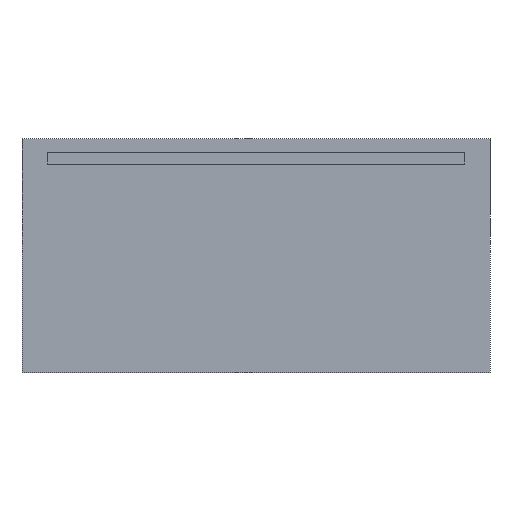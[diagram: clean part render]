
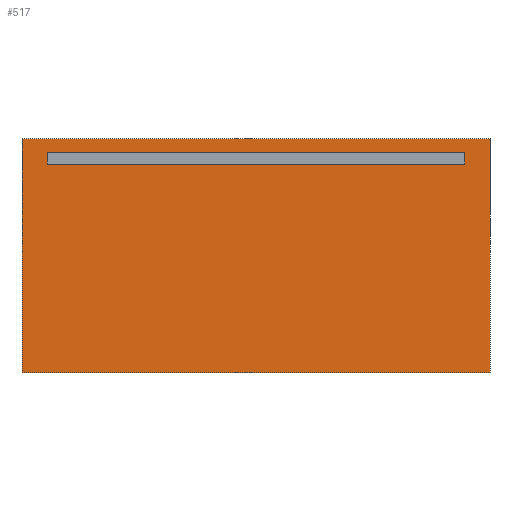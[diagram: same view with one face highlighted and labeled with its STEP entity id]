
A CAD part, front view. The second image highlights one B-rep face of the part: STEP entity #517.
In plain terms, the highlighted planar face has unit normal (0, -1, 0).
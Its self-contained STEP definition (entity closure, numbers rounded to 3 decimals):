
#47=FACE_BOUND('',#92,.T.);
#62=FACE_OUTER_BOUND('',#91,.T.);
#91=EDGE_LOOP('',(#359,#360,#361,#362));
#92=EDGE_LOOP('',(#363,#364,#365,#366));
#115=LINE('',#766,#159);
#119=LINE('',#774,#163);
#122=LINE('',#780,#166);
#125=LINE('',#785,#169);
#127=LINE('',#791,#171);
#131=LINE('',#799,#175);
#134=LINE('',#805,#178);
#137=LINE('',#810,#181);
#159=VECTOR('',#614,10.);
#163=VECTOR('',#620,10.);
#166=VECTOR('',#625,10.);
#169=VECTOR('',#630,10.);
#171=VECTOR('',#636,10.);
#175=VECTOR('',#642,10.);
#178=VECTOR('',#647,10.);
#181=VECTOR('',#652,10.);
#203=VERTEX_POINT('',#764);
#204=VERTEX_POINT('',#765);
#207=VERTEX_POINT('',#773);
#209=VERTEX_POINT('',#779);
#211=VERTEX_POINT('',#789);
#212=VERTEX_POINT('',#790);
#215=VERTEX_POINT('',#798);
#217=VERTEX_POINT('',#804);
#251=EDGE_CURVE('',#203,#204,#115,.T.);
#255=EDGE_CURVE('',#207,#203,#119,.T.);
#258=EDGE_CURVE('',#209,#207,#122,.T.);
#261=EDGE_CURVE('',#204,#209,#125,.T.);
#263=EDGE_CURVE('',#211,#212,#127,.T.);
#267=EDGE_CURVE('',#215,#211,#131,.T.);
#270=EDGE_CURVE('',#217,#215,#134,.T.);
#273=EDGE_CURVE('',#212,#217,#137,.T.);
#359=ORIENTED_EDGE('',*,*,#273,.F.);
#360=ORIENTED_EDGE('',*,*,#263,.F.);
#361=ORIENTED_EDGE('',*,*,#267,.F.);
#362=ORIENTED_EDGE('',*,*,#270,.F.);
#363=ORIENTED_EDGE('',*,*,#251,.T.);
#364=ORIENTED_EDGE('',*,*,#261,.T.);
#365=ORIENTED_EDGE('',*,*,#258,.T.);
#366=ORIENTED_EDGE('',*,*,#255,.T.);
#465=PLANE('',#567);
#517=ADVANCED_FACE('',(#62,#47),#465,.F.);
#567=AXIS2_PLACEMENT_3D('',#813,#656,#657);
#614=DIRECTION('',(0.,0.,-1.));
#620=DIRECTION('',(1.,0.,0.));
#625=DIRECTION('',(0.,0.,1.));
#630=DIRECTION('',(-1.,0.,0.));
#636=DIRECTION('',(0.,0.,1.));
#642=DIRECTION('',(-1.,0.,0.));
#647=DIRECTION('',(0.,0.,-1.));
#652=DIRECTION('',(1.,0.,0.));
#656=DIRECTION('center_axis',(0.,1.,0.));
#657=DIRECTION('ref_axis',(0.,0.,1.));
#764=CARTESIAN_POINT('',(625.,-26.,660.));
#765=CARTESIAN_POINT('',(625.,-26.,625.));
#766=CARTESIAN_POINT('',(625.,-26.,505.));
#773=CARTESIAN_POINT('',(-625.,-26.,660.));
#774=CARTESIAN_POINT('',(-312.5,-26.,660.));
#779=CARTESIAN_POINT('',(-625.,-26.,625.));
#780=CARTESIAN_POINT('',(-625.,-26.,487.5));
#785=CARTESIAN_POINT('',(312.5,-26.,625.));
#789=CARTESIAN_POINT('',(-700.,-26.,0.));
#790=CARTESIAN_POINT('',(-700.,-26.,700.));
#791=CARTESIAN_POINT('',(-700.,-26.,0.));
#798=CARTESIAN_POINT('',(700.,-26.,0.));
#799=CARTESIAN_POINT('',(700.,-26.,0.));
#804=CARTESIAN_POINT('',(700.,-26.,700.));
#805=CARTESIAN_POINT('',(700.,-26.,700.));
#810=CARTESIAN_POINT('',(-700.,-26.,700.));
#813=CARTESIAN_POINT('Origin',(0.,-26.,350.));
